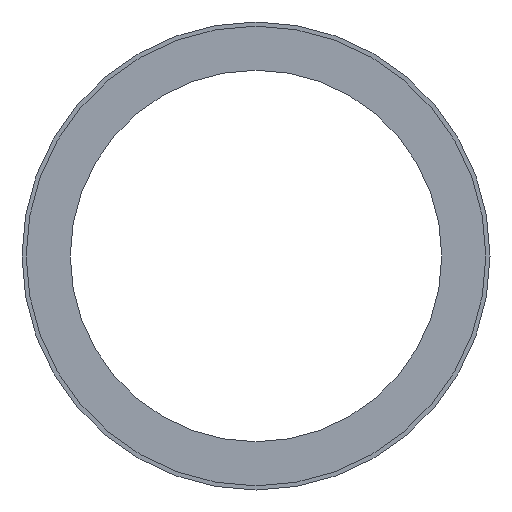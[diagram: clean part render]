
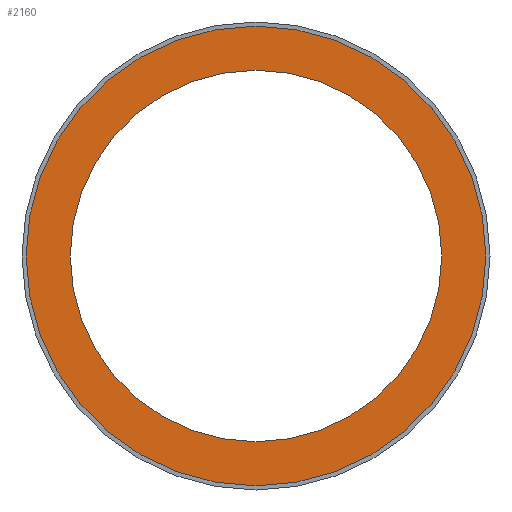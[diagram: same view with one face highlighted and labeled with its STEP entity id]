
A CAD part, front view. The second image highlights one B-rep face of the part: STEP entity #2160.
In plain terms, the highlighted planar face has unit normal (0, -1, 0).
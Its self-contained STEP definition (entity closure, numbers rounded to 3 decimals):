
#64 = CARTESIAN_POINT ( 'NONE',  ( 0., -58., 0. ) ) ;
#96 = ORIENTED_EDGE ( 'NONE', *, *, #3063, .T. ) ;
#311 = DIRECTION ( 'NONE',  ( 0., -1., 0. ) ) ;
#613 = FACE_BOUND ( 'NONE', #3801, .T. ) ;
#1027 = AXIS2_PLACEMENT_3D ( 'NONE', #1678, #311, #7242 ) ;
#1365 = CARTESIAN_POINT ( 'NONE',  ( 0., -58., 247.5 ) ) ;
#1678 = CARTESIAN_POINT ( 'NONE',  ( 0., -58., 0. ) ) ;
#2160 = ADVANCED_FACE ( 'NONE', ( #613, #4990 ), #3828, .F. ) ;
#2182 = DIRECTION ( 'NONE',  ( 0., 0., -1. ) ) ;
#2513 = DIRECTION ( 'NONE',  ( 0., 0., -1. ) ) ;
#2737 = AXIS2_PLACEMENT_3D ( 'NONE', #3941, #4694, #7353 ) ;
#2797 = AXIS2_PLACEMENT_3D ( 'NONE', #3838, #6729, #2513 ) ;
#2827 = VERTEX_POINT ( 'NONE', #1365 ) ;
#2835 = AXIS2_PLACEMENT_3D ( 'NONE', #6336, #5527, #7737 ) ;
#2853 = DIRECTION ( 'NONE',  ( 0., -1., 0. ) ) ;
#3063 = EDGE_CURVE ( 'NONE', #4125, #2827, #3220, .T. ) ;
#3220 = CIRCLE ( 'NONE', #2797, 247.5 ) ;
#3739 = CIRCLE ( 'NONE', #8038, 247.5 ) ;
#3801 = EDGE_LOOP ( 'NONE', ( #6770, #6571 ) ) ;
#3828 = PLANE ( 'NONE',  #2737 ) ;
#3838 = CARTESIAN_POINT ( 'NONE',  ( 0., -58., 0. ) ) ;
#3899 = CIRCLE ( 'NONE', #1027, 200. ) ;
#3941 = CARTESIAN_POINT ( 'NONE',  ( 0., -58., 200. ) ) ;
#4125 = VERTEX_POINT ( 'NONE', #5778 ) ;
#4396 = VERTEX_POINT ( 'NONE', #7479 ) ;
#4641 = EDGE_CURVE ( 'NONE', #2827, #4125, #3739, .T. ) ;
#4694 = DIRECTION ( 'NONE',  ( 0., 1., 0. ) ) ;
#4990 = FACE_OUTER_BOUND ( 'NONE', #8290, .T. ) ;
#5465 = ORIENTED_EDGE ( 'NONE', *, *, #4641, .T. ) ;
#5527 = DIRECTION ( 'NONE',  ( 0., -1., 0. ) ) ;
#5778 = CARTESIAN_POINT ( 'NONE',  ( 0., -58., -247.5 ) ) ;
#5905 = CARTESIAN_POINT ( 'NONE',  ( 0., -58., 200. ) ) ;
#6124 = EDGE_CURVE ( 'NONE', #4396, #7985, #7451, .T. ) ;
#6336 = CARTESIAN_POINT ( 'NONE',  ( 0., -58., 0. ) ) ;
#6571 = ORIENTED_EDGE ( 'NONE', *, *, #7328, .F. ) ;
#6729 = DIRECTION ( 'NONE',  ( 0., -1., 0. ) ) ;
#6770 = ORIENTED_EDGE ( 'NONE', *, *, #6124, .F. ) ;
#7242 = DIRECTION ( 'NONE',  ( 0., 0., -1. ) ) ;
#7328 = EDGE_CURVE ( 'NONE', #7985, #4396, #3899, .T. ) ;
#7353 = DIRECTION ( 'NONE',  ( 0., 0., 1. ) ) ;
#7451 = CIRCLE ( 'NONE', #2835, 200. ) ;
#7479 = CARTESIAN_POINT ( 'NONE',  ( 0., -58., -200. ) ) ;
#7737 = DIRECTION ( 'NONE',  ( 0., 0., -1. ) ) ;
#7985 = VERTEX_POINT ( 'NONE', #5905 ) ;
#8038 = AXIS2_PLACEMENT_3D ( 'NONE', #64, #2853, #2182 ) ;
#8290 = EDGE_LOOP ( 'NONE', ( #96, #5465 ) ) ;
